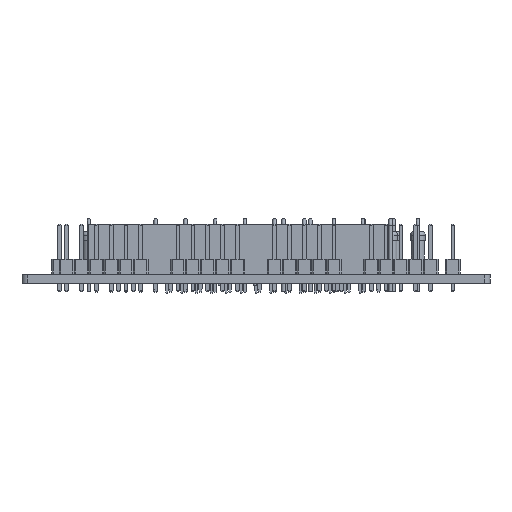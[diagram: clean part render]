
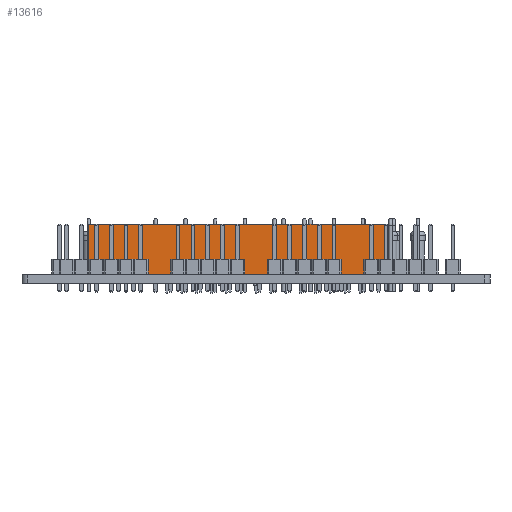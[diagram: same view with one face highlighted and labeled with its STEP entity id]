
A CAD part, front view. The second image highlights one B-rep face of the part: STEP entity #13616.
In plain terms, the highlighted planar face has unit normal (0, -1, 0) as drawn and (-1, 0, 0) by its records, which use the part's own axes.
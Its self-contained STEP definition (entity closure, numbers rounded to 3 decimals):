
#11393 = VERTEX_POINT('',#11394);
#11394 = CARTESIAN_POINT('',(-1.27,-49.53,0.));
#11402 = EDGE_CURVE('',#11393,#11403,#11405,.T.);
#11403 = VERTEX_POINT('',#11404);
#11404 = CARTESIAN_POINT('',(-1.27,-49.53,8.5));
#11405 = LINE('',#11406,#11407);
#11406 = CARTESIAN_POINT('',(-1.27,-49.53,0.));
#11407 = VECTOR('',#11408,1.);
#11408 = DIRECTION('',(0.,0.,1.));
#11465 = VERTEX_POINT('',#11466);
#11466 = CARTESIAN_POINT('',(-1.27,1.27,8.5));
#11472 = EDGE_CURVE('',#11473,#11465,#11475,.T.);
#11473 = VERTEX_POINT('',#11474);
#11474 = CARTESIAN_POINT('',(-1.27,1.27,0.));
#11475 = LINE('',#11476,#11477);
#11476 = CARTESIAN_POINT('',(-1.27,1.27,0.));
#11477 = VECTOR('',#11478,1.);
#11478 = DIRECTION('',(0.,0.,1.));
#11537 = EDGE_CURVE('',#11465,#11403,#11538,.T.);
#11538 = LINE('',#11539,#11540);
#11539 = CARTESIAN_POINT('',(-1.27,1.27,8.5));
#11540 = VECTOR('',#11541,1.);
#11541 = DIRECTION('',(0.,-1.,0.));
#12240 = EDGE_CURVE('',#11473,#11393,#12241,.T.);
#12241 = LINE('',#12242,#12243);
#12242 = CARTESIAN_POINT('',(-1.27,1.27,0.));
#12243 = VECTOR('',#12244,1.);
#12244 = DIRECTION('',(0.,-1.,0.));
#13616 = ADVANCED_FACE('',(#13617),#13623,.F.);
#13617 = FACE_BOUND('',#13618,.F.);
#13618 = EDGE_LOOP('',(#13619,#13620,#13621,#13622));
#13619 = ORIENTED_EDGE('',*,*,#11472,.T.);
#13620 = ORIENTED_EDGE('',*,*,#11537,.T.);
#13621 = ORIENTED_EDGE('',*,*,#11402,.F.);
#13622 = ORIENTED_EDGE('',*,*,#12240,.F.);
#13623 = PLANE('',#13624);
#13624 = AXIS2_PLACEMENT_3D('',#13625,#13626,#13627);
#13625 = CARTESIAN_POINT('',(-1.27,1.27,0.));
#13626 = DIRECTION('',(1.,0.,0.));
#13627 = DIRECTION('',(0.,-1.,0.));
